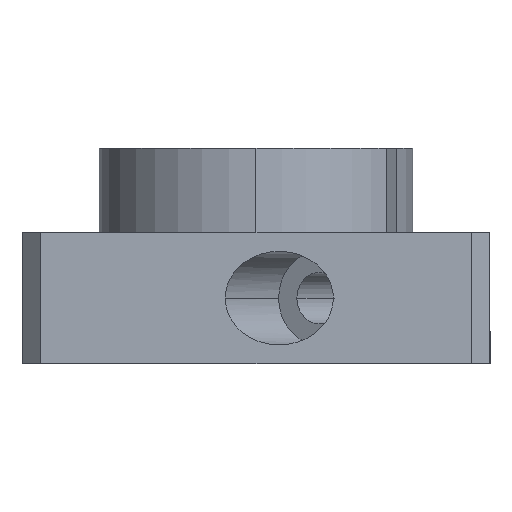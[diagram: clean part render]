
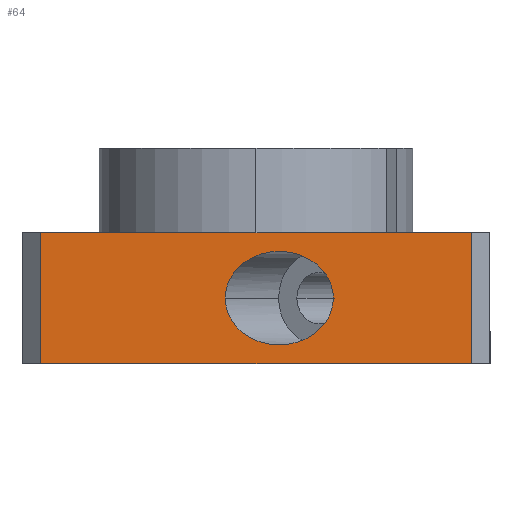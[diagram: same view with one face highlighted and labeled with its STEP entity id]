
A CAD part, left-side view. The second image highlights one B-rep face of the part: STEP entity #64.
In plain terms, the highlighted planar face has unit normal (-1, 0, 0).
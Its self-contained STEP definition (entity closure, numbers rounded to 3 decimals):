
#56 = ORIENTED_EDGE ( 'NONE', *, *, #650, .T. ) ;
#64 = ADVANCED_FACE ( 'NONE', ( #598, #995 ), #308, .F. ) ;
#153 = CARTESIAN_POINT ( 'NONE',  ( -25., -8.257, -4.5 ) ) ;
#176 = VERTEX_POINT ( 'NONE', #867 ) ;
#250 = CARTESIAN_POINT ( 'NONE',  ( -25., 3.29, 5.5 ) ) ;
#274 = CARTESIAN_POINT ( 'NONE',  ( -25., 23., -11.5 ) ) ;
#308 = PLANE ( 'NONE',  #411 ) ;
#310 = VERTEX_POINT ( 'NONE', #274 ) ;
#361 = DIRECTION ( 'NONE',  ( 0., -1., 0. ) ) ;
#366 = CARTESIAN_POINT ( 'NONE',  ( -25., 25., 2.5 ) ) ;
#378 = CARTESIAN_POINT ( 'NONE',  ( -25., 3.29, -4.5 ) ) ;
#405 = VERTEX_POINT ( 'NONE', #710 ) ;
#411 = AXIS2_PLACEMENT_3D ( 'NONE', #589, #896, #990 ) ;
#424 = CARTESIAN_POINT ( 'NONE',  ( -25., 23., 11.5 ) ) ;
#441 = EDGE_LOOP ( 'NONE', ( #692, #736, #1124, #456 ) ) ;
#456 = ORIENTED_EDGE ( 'NONE', *, *, #698, .T. ) ;
#471 = CARTESIAN_POINT ( 'NONE',  ( -25., 3.29, -14.5 ) ) ;
#530 = VECTOR ( 'NONE', #864, 1000. ) ;
#536 = CARTESIAN_POINT ( 'NONE',  ( -25., 25., -11.5 ) ) ;
#567 = CARTESIAN_POINT ( 'NONE',  ( -25., -8.257, -4.5 ) ) ;
#571 = CARTESIAN_POINT ( 'NONE',  ( -25., -23., 11.5 ) ) ;
#587 = VERTEX_POINT ( 'NONE', #1114 ) ;
#589 = CARTESIAN_POINT ( 'NONE',  ( -25., 25., 11.5 ) ) ;
#598 = FACE_BOUND ( 'NONE', #923, .T. ) ;
#650 = EDGE_CURVE ( 'NONE', #1137, #587, #826, .T. ) ;
#664 = LINE ( 'NONE', #571, #530 ) ;
#692 = ORIENTED_EDGE ( 'NONE', *, *, #764, .T. ) ;
#698 = EDGE_CURVE ( 'NONE', #1189, #310, #911, .T. ) ;
#707 = CARTESIAN_POINT ( 'NONE',  ( -25., 23., 2.5 ) ) ;
#710 = CARTESIAN_POINT ( 'NONE',  ( -25., -23., -11.5 ) ) ;
#736 = ORIENTED_EDGE ( 'NONE', *, *, #1083, .T. ) ;
#764 = EDGE_CURVE ( 'NONE', #310, #405, #1029, .T. ) ;
#793 = VECTOR ( 'NONE', #1010, 1000. ) ;
#826 =( BOUNDED_CURVE ( )  B_SPLINE_CURVE ( 3, ( #567, #860, #471, #378 ),
 .UNSPECIFIED., .F., .T. ) 
 B_SPLINE_CURVE_WITH_KNOTS ( ( 4, 4 ),
 ( 3.142, 6.283 ),
 .UNSPECIFIED. ) 
 CURVE ( )  GEOMETRIC_REPRESENTATION_ITEM ( )  RATIONAL_B_SPLINE_CURVE ( ( 1., 0.333, 0.333, 1. ) ) 
 REPRESENTATION_ITEM ( '' )  );
#860 = CARTESIAN_POINT ( 'NONE',  ( -25., -8.257, -14.5 ) ) ;
#864 = DIRECTION ( 'NONE',  ( 0., 0., 1. ) ) ;
#867 = CARTESIAN_POINT ( 'NONE',  ( -25., -23., 2.5 ) ) ;
#896 = DIRECTION ( 'NONE',  ( 1., 0., 0. ) ) ;
#911 = LINE ( 'NONE', #424, #793 ) ;
#915 =( BOUNDED_CURVE ( )  B_SPLINE_CURVE ( 3, ( #1128, #250, #1028, #153 ),
 .UNSPECIFIED., .F., .T. ) 
 B_SPLINE_CURVE_WITH_KNOTS ( ( 4, 4 ),
 ( 0., 3.142 ),
 .UNSPECIFIED. ) 
 CURVE ( )  GEOMETRIC_REPRESENTATION_ITEM ( )  RATIONAL_B_SPLINE_CURVE ( ( 1., 0.333, 0.333, 1. ) ) 
 REPRESENTATION_ITEM ( '' )  );
#917 = CARTESIAN_POINT ( 'NONE',  ( -25., -8.257, -4.5 ) ) ;
#923 = EDGE_LOOP ( 'NONE', ( #56, #988 ) ) ;
#952 = EDGE_CURVE ( 'NONE', #587, #1137, #915, .T. ) ;
#969 = EDGE_CURVE ( 'NONE', #1189, #176, #1235, .T. ) ;
#988 = ORIENTED_EDGE ( 'NONE', *, *, #952, .T. ) ;
#990 = DIRECTION ( 'NONE',  ( 0., 1., 0. ) ) ;
#995 = FACE_OUTER_BOUND ( 'NONE', #441, .T. ) ;
#1010 = DIRECTION ( 'NONE',  ( 0., 0., -1. ) ) ;
#1028 = CARTESIAN_POINT ( 'NONE',  ( -25., -8.257, 5.5 ) ) ;
#1029 = LINE ( 'NONE', #536, #1142 ) ;
#1083 = EDGE_CURVE ( 'NONE', #405, #176, #664, .T. ) ;
#1114 = CARTESIAN_POINT ( 'NONE',  ( -25., 3.29, -4.5 ) ) ;
#1121 = VECTOR ( 'NONE', #361, 1000. ) ;
#1124 = ORIENTED_EDGE ( 'NONE', *, *, #969, .F. ) ;
#1128 = CARTESIAN_POINT ( 'NONE',  ( -25., 3.29, -4.5 ) ) ;
#1137 = VERTEX_POINT ( 'NONE', #917 ) ;
#1142 = VECTOR ( 'NONE', #1232, 1000. ) ;
#1189 = VERTEX_POINT ( 'NONE', #707 ) ;
#1232 = DIRECTION ( 'NONE',  ( 0., -1., 0. ) ) ;
#1235 = LINE ( 'NONE', #366, #1121 ) ;
